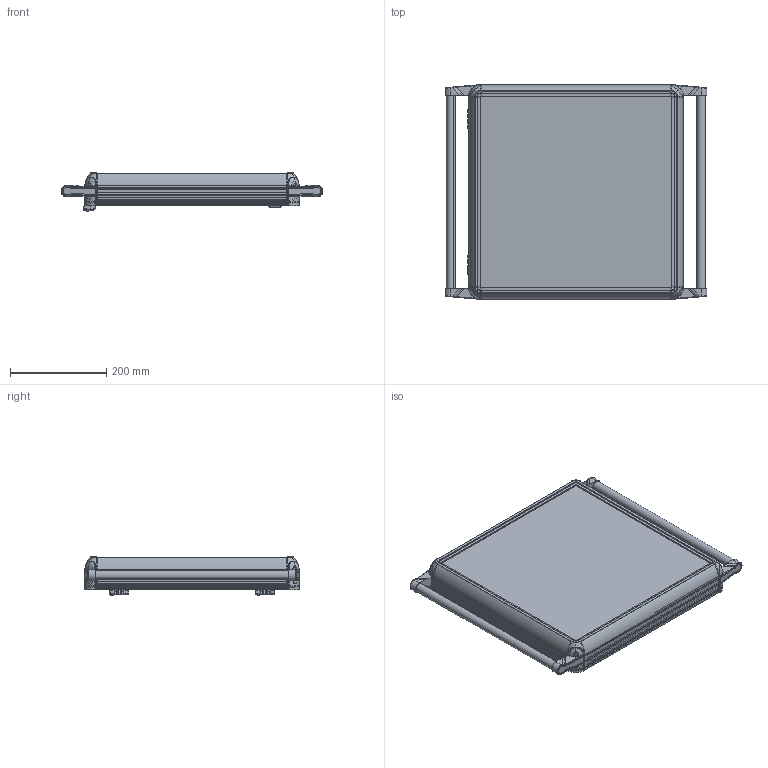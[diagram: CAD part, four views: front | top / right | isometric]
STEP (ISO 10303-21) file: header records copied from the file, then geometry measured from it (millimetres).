
FILE_DESCRIPTION (( 'STEP AP214' ), '1' );
FILE_NAME ('6000-0208.STEP', '2022-08-31T13:13:53', ( '' ), ( '' ), 'SwSTEP 2.0', 'SolidWorks 2022', '' );
FILE_SCHEMA (( 'AUTOMOTIVE_DESIGN' ));
Length unit declared in the file: millimetre
Products named in the file (7): ARKA_KAPAK_400X400; 6000-0208; HPECO-060-001-295_395; ECO6000-0100(SAÐ); 400X400; ECO6000-0100(SOL); boru_425
Assembly tree (12 placements, depth 2):
  6000-0208
    400X400
    ARKA_KAPAK_400X400
    HPECO-060-001-295_395  x4
    ECO6000-0100(SAÐ)  x2
    ECO6000-0100(SOL)  x2
    boru_425  x2
Bounding box: 544.62 x 447 x 79.15 mm (x, y, z)
Volume: 1851535.8 mm3; surface area: 1457870.1 mm2
Topology: 20 solids, 78 shells, 5893 faces, 15874 edges, 9916 vertices
Faces by surface type: plane 2269, cylinder 1646, bspline 1108, cone 528, torus 296, sphere 46
Entity records: 182652 total; most frequent: CARTESIAN_POINT 49221, ORIENTED_EDGE 21206, DIRECTION 17713, EDGE_CURVE 10603, VERTEX_POINT 6611, AXIS2_PLACEMENT_3D 6506, VECTOR 4701, LINE 4701
